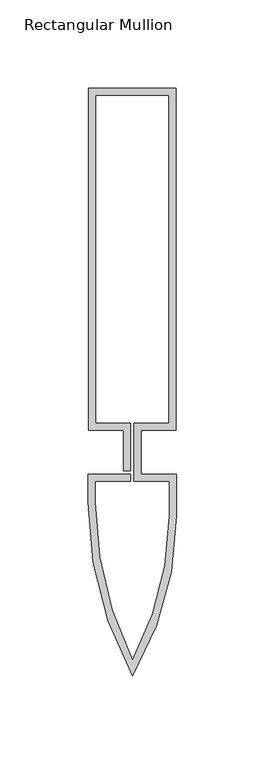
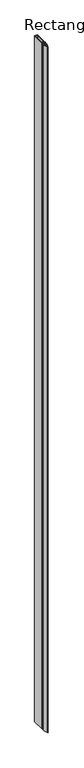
"""IFC4 building model written with IfcOpenShell, lengths in millimetres: member geometry, Rectangular Mullion : Reynaers_CW-50_Mullion-Transom_Horizontal_193.4mm_Facecap-05."""

from ifc_helpers import new_model, si_unit, point, frame, frame_2d, origin, place, context, project, spatial, polyline, circle_curve, trimmed, segment, composite_curve, outline, extrude, source, transform, mapped, element, save


def rectangular_mullion_e0de59ed(model_context):
    return source(origin(), model_context, "Body", "SweptSolid", [
        extrude(outline(composite_curve([segment(polyline([(-24.8004059, 205.9), (24.8004059, 205.9), (24.8004059, 12.5), (4.9004059, 12.5), (4.9004059, -12.5), (24.994845, -12.5), (24.994845, -36.0195976)]), True, "CONTINUOUS"), segment(trimmed(circle_curve(frame_2d((-151.2704106, -36.0195976)), 176.2652556), [point((24.994845, -36.0195976))], [point((0.0, -126.5))], False, "CARTESIAN"), True, "CONTINUOUS"), segment(trimmed(circle_curve(frame_2d((181.1469577, -28.111878)), 206.1418028), [point((0.0, -126.5))], [point((-24.994845, -28.111878))], False, "CARTESIAN"), True, "CONTINUOUS"), segment(polyline([(-24.994845, -28.111878), (-24.994845, -12.5), (-1.0995941, -12.5), (-1.0995941, -16.5), (-20.994845, -16.5), (-20.994845, -28.2355063)]), True, "CONTINUOUS"), segment(trimmed(circle_curve(frame_2d((179.2670132, -28.2355063)), 200.2618582), [point((-20.994845, -28.2355063))], [point((0.0, -117.5))], True, "CARTESIAN"), True, "CONTINUOUS"), segment(trimmed(circle_curve(frame_2d((-147.4777527, -36.0547506)), 168.4725977), [point((0.0, -117.5))], [point((20.994845, -36.0547506))], True, "CARTESIAN"), True, "CONTINUOUS"), segment(polyline([(20.994845, -36.0547506), (20.994845, -16.5), (0.9004059, -16.5), (0.9004059, 16.5), (20.8004059, 16.5), (20.8004059, 201.9), (-20.8004059, 201.9), (-20.8004059, 16.5), (-0.9004059, 16.5), (-0.9004059, -10.5), (-4.9004059, -10.5), (-4.9004059, 12.5), (-24.8004059, 12.5), (-24.8004059, 205.9)]), True, "CONTINUOUS")], self_intersect=False)), frame((0.0, 0.0, -12000.0), z_axis=(0.0, 0.0, 1.0), x_axis=(1.0, 0.0, 0.0)), (0.0, 0.0, 1.0), 12000.0),
    ])


if __name__ == "__main__":
    model = new_model("IFC4")
    model_context = context("Model", 3, world=origin())
    ifc_project = project(units=[si_unit("LENGTHUNIT", "METRE", prefix="MILLI")], contexts=[model_context])
    site = spatial("IfcSite", under=ifc_project)
    building = spatial("IfcBuilding", under=site)
    placement = place(None, origin())
    rectangular_mullion_shape = rectangular_mullion_e0de59ed(model_context)
    element("IfcMember", 1, ObjectType="Rectangular Mullion : Reynaers_CW-50_Mullion-Transom_Horizontal_193.4mm_Facecap-05", at=placement, inside=building, context=model_context, shape_type="MappedRepresentation", body=[
        mapped(rectangular_mullion_shape, transform((0.0, 0.0, 0.0), x_axis=(1.0, 0.0, 0.0), y_axis=(0.0, 1.0, 0.0), z_axis=(0.0, 0.0, 1.0))),
    ])
    save(model, "model.ifc")
